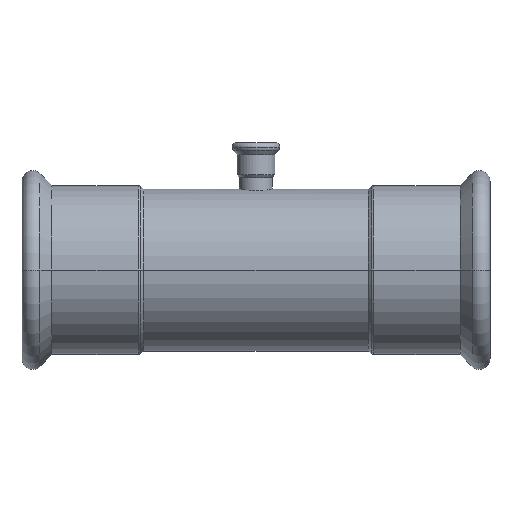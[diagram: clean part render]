
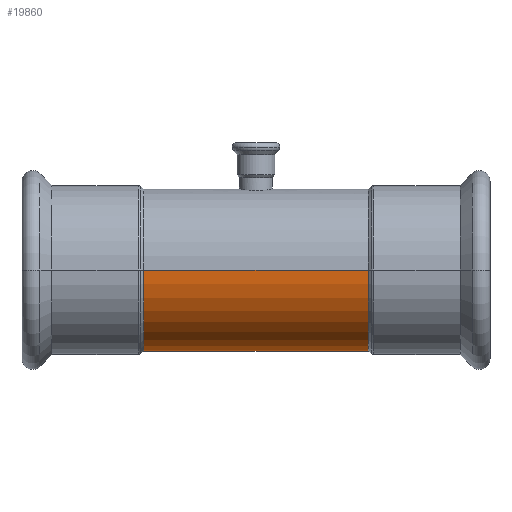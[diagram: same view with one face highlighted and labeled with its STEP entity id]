
A CAD part, front view. The second image highlights one B-rep face of the part: STEP entity #19860.
In plain terms, the highlighted cylindrical face has radius 54 mm (diameter 108 mm), a partial arc.
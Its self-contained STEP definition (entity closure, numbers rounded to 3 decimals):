
#13350=CARTESIAN_POINT('',(-244.291,-20.065,0.));
#13360=DIRECTION('',(1.,0.,0.));
#13370=DIRECTION('',(0.,0.,-1.));
#13380=AXIS2_PLACEMENT_3D('',#13350,#13360,#13370);
#13390=CYLINDRICAL_SURFACE('',#13380,54.);
#19500=CARTESIAN_POINT('',(-244.291,-20.065,54.));
#19510=DIRECTION('',(1.,0.,0.));
#19520=VECTOR('',#19510,1.);
#19530=LINE('',#19500,#19520);
#19540=CARTESIAN_POINT('',(-394.291,-20.065,54.));
#19550=VERTEX_POINT('',#19540);
#19560=CARTESIAN_POINT('',(-244.291,-20.065,54.));
#19570=VERTEX_POINT('',#19560);
#19580=EDGE_CURVE('',#19550,#19570,#19530,.T.);
#19590=ORIENTED_EDGE('',*,*,#19580,.F.);
#19600=CARTESIAN_POINT('',(-244.291,-20.065,0.));
#19610=DIRECTION('',(1.,0.,0.));
#19620=DIRECTION('',(0.,0.,1.));
#19630=AXIS2_PLACEMENT_3D('',#19600,#19610,#19620);
#19640=CIRCLE('',#19630,54.);
#19650=CARTESIAN_POINT('',(-244.291,-20.065,-54.));
#19660=VERTEX_POINT('',#19650);
#19670=EDGE_CURVE('',#19570,#19660,#19640,.T.);
#19680=ORIENTED_EDGE('',*,*,#19670,.F.);
#19690=CARTESIAN_POINT('',(-244.291,-20.065,-54.));
#19700=DIRECTION('',(1.,0.,0.));
#19710=VECTOR('',#19700,1.);
#19720=LINE('',#19690,#19710);
#19730=CARTESIAN_POINT('',(-394.291,-20.065,-54.));
#19740=VERTEX_POINT('',#19730);
#19750=EDGE_CURVE('',#19740,#19660,#19720,.T.);
#19760=ORIENTED_EDGE('',*,*,#19750,.T.);
#19770=CARTESIAN_POINT('',(-394.291,-20.065,0.));
#19780=DIRECTION('',(1.,0.,0.));
#19790=DIRECTION('',(0.,0.,-1.));
#19800=AXIS2_PLACEMENT_3D('',#19770,#19780,#19790);
#19810=CIRCLE('',#19800,54.);
#19820=EDGE_CURVE('',#19550,#19740,#19810,.T.);
#19830=ORIENTED_EDGE('',*,*,#19820,.T.);
#19840=EDGE_LOOP('',(#19830,#19760,#19680,#19590));
#19850=FACE_OUTER_BOUND('',#19840,.T.);
#19860=ADVANCED_FACE('',(#19850),#13390,.T.);
